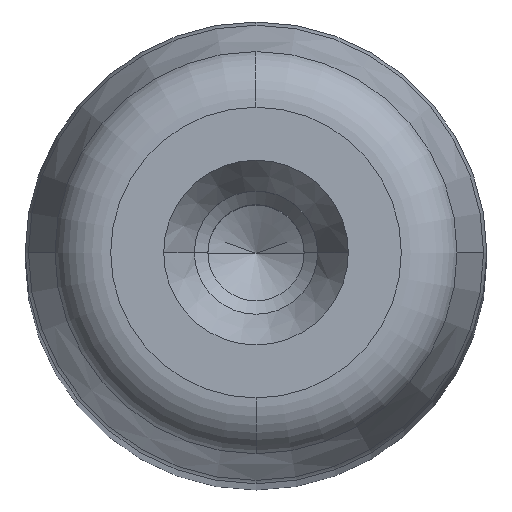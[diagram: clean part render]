
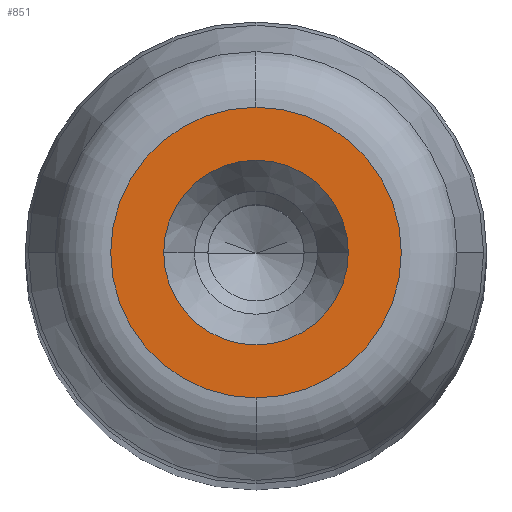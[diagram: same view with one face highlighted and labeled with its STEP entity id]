
A CAD part, top view. The second image highlights one B-rep face of the part: STEP entity #851.
In plain terms, the highlighted planar face has unit normal (0, 0, 1) as drawn and (0, 1, 0) by its records, which use the part's own axes.
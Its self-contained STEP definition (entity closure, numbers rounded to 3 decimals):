
#281=CARTESIAN_POINT('',(4.8,200.0,0.0));
#282=VERTEX_POINT('',#281);
#289=CARTESIAN_POINT('',(-4.8,200.0,0.));
#290=VERTEX_POINT('',#289);
#291=CARTESIAN_POINT('',(0.0,200.0,0.0));
#292=DIRECTION('',(0.0,1.0,0.0));
#293=DIRECTION('',(1.0,0.0,0.0));
#294=AXIS2_PLACEMENT_3D('',#291,#292,#293);
#295=CIRCLE('',#294,4.8);
#296=EDGE_CURVE('',#282,#290,#295,.T.);
#313=CARTESIAN_POINT('',(0.0,200.,7.554));
#314=VERTEX_POINT('',#313);
#324=CARTESIAN_POINT('',(0.,200.,-7.554));
#325=VERTEX_POINT('',#324);
#326=CARTESIAN_POINT('',(0.0,200.,0.0));
#327=DIRECTION('',(0.0,1.0,0.0));
#328=DIRECTION('',(1.0,0.0,0.0));
#329=AXIS2_PLACEMENT_3D('',#326,#327,#328);
#330=CIRCLE('',#329,7.554);
#331=EDGE_CURVE('',#325,#314,#330,.T.);
#812=CARTESIAN_POINT('',(7.554,200.,0.0));
#813=VERTEX_POINT('',#812);
#814=CARTESIAN_POINT('',(0.0,200.,0.0));
#815=DIRECTION('',(0.0,1.0,0.0));
#816=DIRECTION('',(1.0,0.0,0.0));
#817=AXIS2_PLACEMENT_3D('',#814,#815,#816);
#818=CIRCLE('',#817,7.554);
#819=EDGE_CURVE('',#813,#325,#818,.T.);
#821=CARTESIAN_POINT('',(0.0,200.,0.0));
#822=DIRECTION('',(0.0,1.0,0.0));
#823=DIRECTION('',(1.0,0.0,0.0));
#824=AXIS2_PLACEMENT_3D('',#821,#822,#823);
#825=CIRCLE('',#824,7.554);
#826=EDGE_CURVE('',#314,#813,#825,.T.);
#831=CARTESIAN_POINT('',(-8.31,200.0,-8.31));
#832=DIRECTION('',(0.0,1.0,0.0));
#833=DIRECTION('',(0.0,0.0,1.0));
#834=AXIS2_PLACEMENT_3D('',#831,#832,#833);
#835=PLANE('',#834);
#836=ORIENTED_EDGE('',*,*,#819,.T.);
#837=ORIENTED_EDGE('',*,*,#331,.T.);
#838=ORIENTED_EDGE('',*,*,#826,.T.);
#839=EDGE_LOOP('',(#836,#837,#838));
#840=FACE_OUTER_BOUND('',#839,.T.);
#841=ORIENTED_EDGE('',*,*,#296,.F.);
#842=CARTESIAN_POINT('',(0.0,200.0,0.0));
#843=DIRECTION('',(0.0,1.0,0.0));
#844=DIRECTION('',(1.0,0.0,0.0));
#845=AXIS2_PLACEMENT_3D('',#842,#843,#844);
#846=CIRCLE('',#845,4.8);
#847=EDGE_CURVE('',#290,#282,#846,.T.);
#848=ORIENTED_EDGE('',*,*,#847,.F.);
#849=EDGE_LOOP('',(#841,#848));
#850=FACE_BOUND('',#849,.T.);
#851=ADVANCED_FACE('',(#840,#850),#835,.T.);
